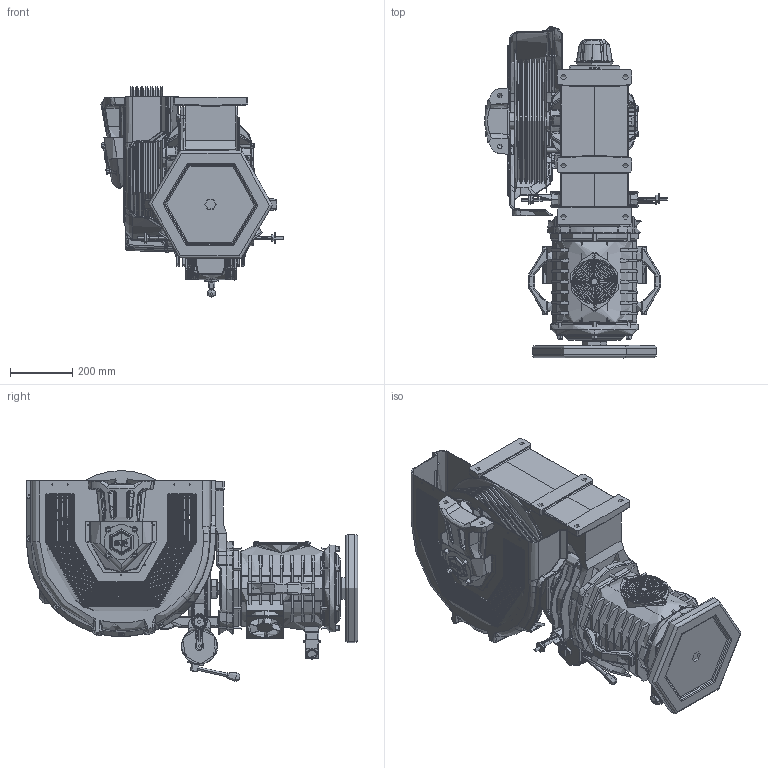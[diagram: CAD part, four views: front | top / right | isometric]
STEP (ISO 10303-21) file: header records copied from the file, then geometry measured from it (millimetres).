
FILE_DESCRIPTION (( 'STEP AP214' ), '1' );
FILE_NAME ('STC7504021.STEP', '2026-01-20T08:49:01', ( '' ), ( '' ), 'SwSTEP 2.0', 'SolidWorks 2023', '' );
FILE_SCHEMA (( 'AUTOMOTIVE_DESIGN' ));
Length unit declared in the file: millimetre
Products named in the file (1): STC7504021
Bounding box: 586.99 x 1068.96 x 679.18 mm (x, y, z)
Topology: 100 solids, 108 shells, 8553 faces, 21014 edges, 12598 vertices
Faces by surface type: plane 2560, cylinder 2478, bspline 1796, torus 832, cone 603, sphere 284
Full cylindrical faces by diameter (mm): 20 x3
Entity records: 330188 total; most frequent: CARTESIAN_POINT 140408, ORIENTED_EDGE 41738, DIRECTION 37140, EDGE_CURVE 20869, AXIS2_PLACEMENT_3D 14925, VERTEX_POINT 12563, EDGE_LOOP 9338, ADVANCED_FACE 8551
